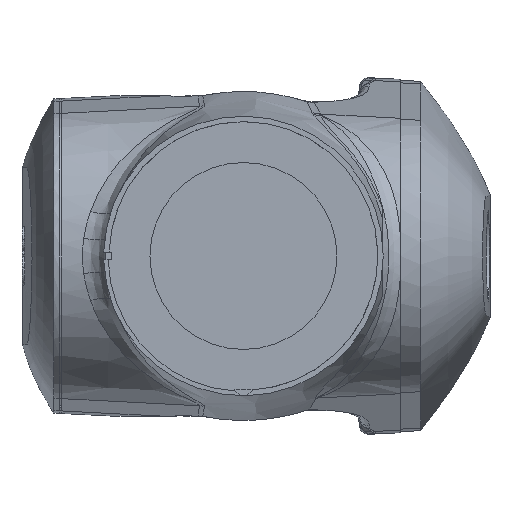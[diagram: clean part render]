
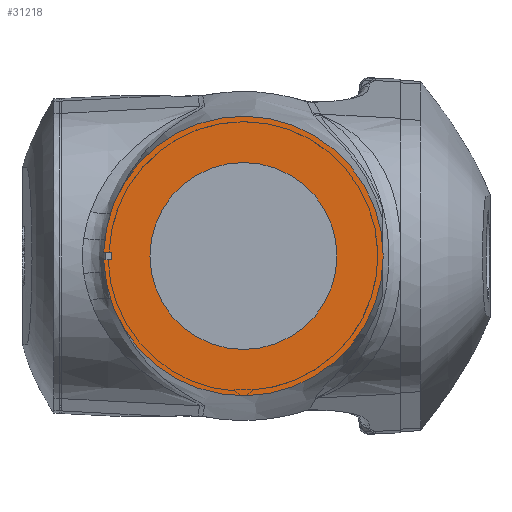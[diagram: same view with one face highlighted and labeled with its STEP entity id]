
A CAD part, left-side view. The second image highlights one B-rep face of the part: STEP entity #31218.
In plain terms, the highlighted planar face has unit normal (-1, 0, 0).
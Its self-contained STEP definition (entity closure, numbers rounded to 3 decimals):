
#323 = ORIENTED_EDGE ( 'NONE', *, *, #15567, .T. ) ;
#790 = VERTEX_POINT ( 'NONE', #29341 ) ;
#896 = DIRECTION ( 'NONE',  ( 0., -1., 0. ) ) ;
#1613 = CARTESIAN_POINT ( 'NONE',  ( 533., 141.944, 2521. ) ) ;
#1648 = PLANE ( 'NONE',  #21040 ) ;
#3172 = EDGE_CURVE ( 'NONE', #790, #41387, #40740, .T. ) ;
#3801 = EDGE_LOOP ( 'NONE', ( #33189, #31198, #23229, #323 ) ) ;
#8379 = CARTESIAN_POINT ( 'NONE',  ( 533., 0., 2521. ) ) ;
#9258 = VECTOR ( 'NONE', #27383, 1000. ) ;
#10017 = DIRECTION ( 'NONE',  ( 0., -1., 0. ) ) ;
#11402 = VECTOR ( 'NONE', #28833, 1000. ) ;
#11446 = EDGE_CURVE ( 'NONE', #35865, #35865, #35951, .T. ) ;
#11712 = CARTESIAN_POINT ( 'NONE',  ( 533., 134., 2529. ) ) ;
#13017 = EDGE_CURVE ( 'NONE', #41387, #38458, #26095, .T. ) ;
#14848 = DIRECTION ( 'NONE',  ( -1., 0., 0. ) ) ;
#14886 = DIRECTION ( 'NONE',  ( -1., 0., 0. ) ) ;
#15567 = EDGE_CURVE ( 'NONE', #38458, #29615, #32004, .T. ) ;
#16799 = DIRECTION ( 'NONE',  ( -1., 0., 0. ) ) ;
#17727 = AXIS2_PLACEMENT_3D ( 'NONE', #29902, #14886, #896 ) ;
#18126 = VECTOR ( 'NONE', #34372, 1000. ) ;
#19346 = CARTESIAN_POINT ( 'NONE',  ( 533., 0., 2529. ) ) ;
#21040 = AXIS2_PLACEMENT_3D ( 'NONE', #41417, #14848, #21204 ) ;
#21204 = DIRECTION ( 'NONE',  ( 0., -1., 0. ) ) ;
#23229 = ORIENTED_EDGE ( 'NONE', *, *, #13017, .T. ) ;
#23821 = EDGE_LOOP ( 'NONE', ( #26785 ) ) ;
#25564 = CARTESIAN_POINT ( 'NONE',  ( 533., 141.944, 2529. ) ) ;
#26095 = CIRCLE ( 'NONE', #30107, 142. ) ;
#26785 = ORIENTED_EDGE ( 'NONE', *, *, #11446, .F. ) ;
#27383 = DIRECTION ( 'NONE',  ( 0., 1., 0. ) ) ;
#28833 = DIRECTION ( 'NONE',  ( 0., -1., 0. ) ) ;
#29341 = CARTESIAN_POINT ( 'NONE',  ( 533., 134., 2521. ) ) ;
#29615 = VERTEX_POINT ( 'NONE', #11712 ) ;
#29902 = CARTESIAN_POINT ( 'NONE',  ( 533., 0., 2525. ) ) ;
#30107 = AXIS2_PLACEMENT_3D ( 'NONE', #35629, #16799, #10017 ) ;
#31198 = ORIENTED_EDGE ( 'NONE', *, *, #3172, .T. ) ;
#31218 = ADVANCED_FACE ( 'NONE', ( #34858, #37248 ), #1648, .T. ) ;
#32004 = LINE ( 'NONE', #19346, #11402 ) ;
#32458 = CARTESIAN_POINT ( 'NONE',  ( 533., -95., 2525. ) ) ;
#33189 = ORIENTED_EDGE ( 'NONE', *, *, #36564, .F. ) ;
#34372 = DIRECTION ( 'NONE',  ( 0., 0., 1. ) ) ;
#34858 = FACE_BOUND ( 'NONE', #23821, .T. ) ;
#35629 = CARTESIAN_POINT ( 'NONE',  ( 533., 0., 2525. ) ) ;
#35865 = VERTEX_POINT ( 'NONE', #32458 ) ;
#35951 = CIRCLE ( 'NONE', #17727, 95. ) ;
#36564 = EDGE_CURVE ( 'NONE', #790, #29615, #37578, .T. ) ;
#37248 = FACE_OUTER_BOUND ( 'NONE', #3801, .T. ) ;
#37578 = LINE ( 'NONE', #40111, #18126 ) ;
#38458 = VERTEX_POINT ( 'NONE', #25564 ) ;
#40111 = CARTESIAN_POINT ( 'NONE',  ( 533., 134., 2525. ) ) ;
#40740 = LINE ( 'NONE', #8379, #9258 ) ;
#41387 = VERTEX_POINT ( 'NONE', #1613 ) ;
#41417 = CARTESIAN_POINT ( 'NONE',  ( 533., 0., 2525. ) ) ;
